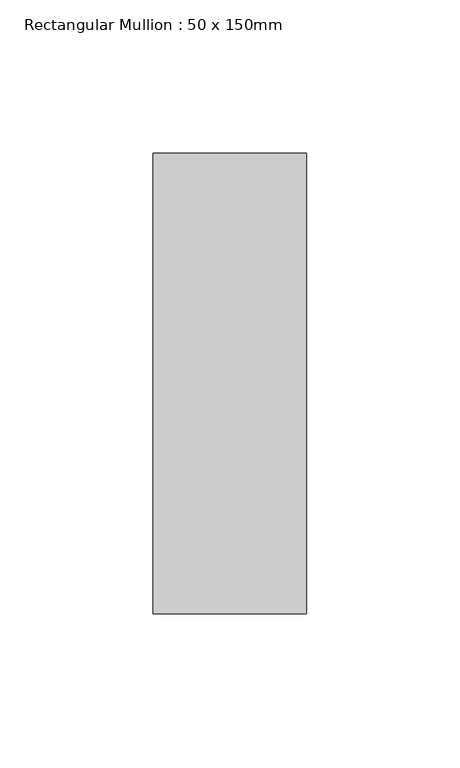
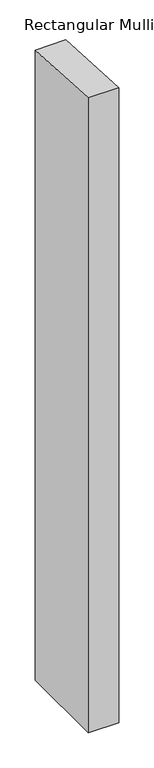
"""IFC4 building model written with IfcOpenShell, lengths in millimetres: member geometry, Rectangular Mullion : 50 x 150mm."""

from ifc_helpers import new_model, si_unit, frame, origin, place, context, project, spatial, polyline, outline, extrude, source, transform, mapped, element, save


def rectangular_mullion_50_x_150mm_a70bddc8(model_context):
    return source(origin(), model_context, "Body", "SweptSolid", [
        extrude(outline(polyline([(-75.0, 4.1050315), (75.0, -4.1050315), (75.0, -1095.2328072), (-75.0, -1095.2328072), (-75.0, 4.1050315)])), frame((-25.0, 0.0, 0.0), z_axis=(1.0, 0.0, 0.0), x_axis=(0.0, 1.0, 0.0)), (0.0, 0.0, 1.0), 50.0),
    ])


if __name__ == "__main__":
    model = new_model("IFC4")
    model_context = context("Model", 3, world=origin())
    ifc_project = project(units=[si_unit("LENGTHUNIT", "METRE", prefix="MILLI")], contexts=[model_context])
    site = spatial("IfcSite", under=ifc_project)
    building = spatial("IfcBuilding", under=site)
    placement = place(None, origin())
    rectangular_mullion_50_x_150mm_shape = rectangular_mullion_50_x_150mm_a70bddc8(model_context)
    element("IfcMember", 1, ObjectType="Rectangular Mullion : 50 x 150mm", at=placement, inside=building, context=model_context, shape_type="MappedRepresentation", body=[
        mapped(rectangular_mullion_50_x_150mm_shape, transform((0.0, 0.0, 0.0), x_axis=(1.0, 0.0, 0.0), y_axis=(0.0, 1.0, 0.0), z_axis=(0.0, 0.0, 1.0))),
    ])
    save(model, "model.ifc")
